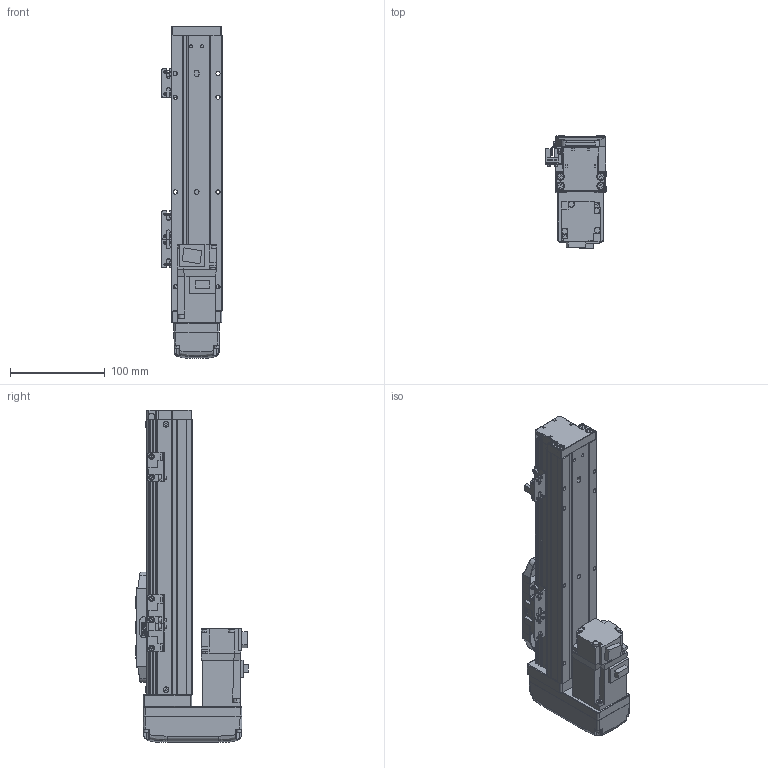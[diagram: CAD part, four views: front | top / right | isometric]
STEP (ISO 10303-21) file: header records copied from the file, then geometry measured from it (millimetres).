
FILE_DESCRIPTION (( 'STEP AP203' ), '1' );
FILE_NAME ('GTH5-150-BM-M10-C4.step', '2022-09-23T00:46:42', ( '微软用户' ), ( '微软中国' ), 'SwSTEP 2.0', 'SolidWorks 2020', '' );
FILE_SCHEMA (( 'CONFIG_CONTROL_DESIGN' ));
Length unit declared in the file: millimetre
Products named in the file (19): GBT 70.1-M3℅6; GTH50-027-1_BTHA50-027-2; BTH-M3X5X6; GBT96.1-2002 3×0.8; GTH50-026; GTH50-001_150; GTH50-024; GTH5-150-BM-M10-C4; GBT 70.1-M4×16; GBT 70.1-M2.5×6; GTH50-003; GTH50-028; GTH50-006; GTH50-013; GTH50-022-1; GTH50-004; GTH50-023; HG-KR13; GBT 70.3-M3℅6
Assembly tree (57 placements, depth 2):
  GTH5-150-BM-M10-C4
    GTH50-006
    GTH50-004
    GBT 70.3-M3℅6  x4
    BTH-M3X5X6  x8
    GTH50-001_150
    GBT 70.1-M4×16  x8
    GTH50-003
    GTH50-013
    GTH50-023  x3
    GBT 70.1-M3℅6  x12
    GBT96.1-2002 3×0.8  x6
    GTH50-024  x3
    GBT 70.1-M2.5×6  x2
    GTH50-028  x2
    GTH50-022-1
    HG-KR13
    GTH50-027-1_BTHA50-027-2
    GTH50-026
Bounding box: 63.8 x 118.9 x 350 mm (x, y, z)
Volume: 896654.2 mm3; surface area: 195533.6 mm2
Topology: 59 solids, 59 shells, 2144 faces, 4968 edges, 3044 vertices
Faces by surface type: plane 1142, cylinder 573, cone 219, torus 162, bspline 40, sphere 8
Entity records: 39568 total; most frequent: CARTESIAN_POINT 7851, DIRECTION 6073, ORIENTED_EDGE 5850, EDGE_CURVE 2925, AXIS2_PLACEMENT_3D 2104, VECTOR 1865, LINE 1865, VERTEX_POINT 1846
